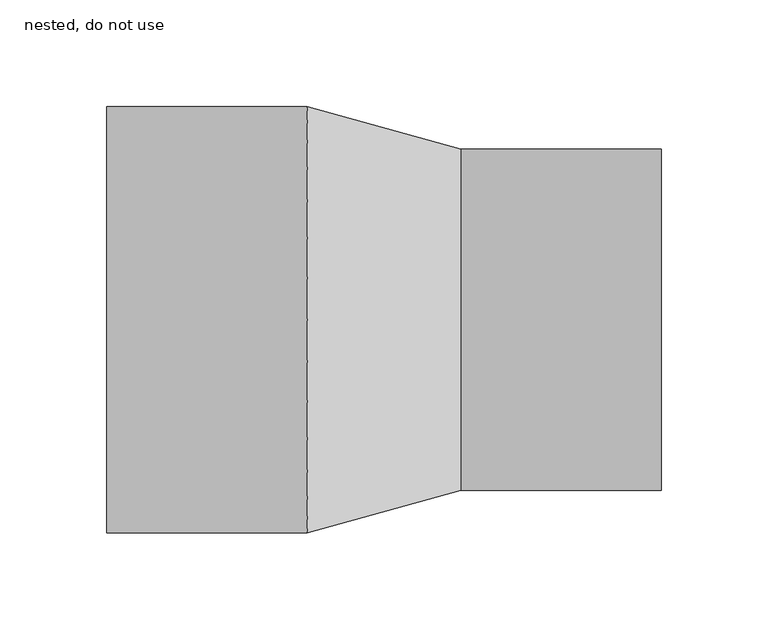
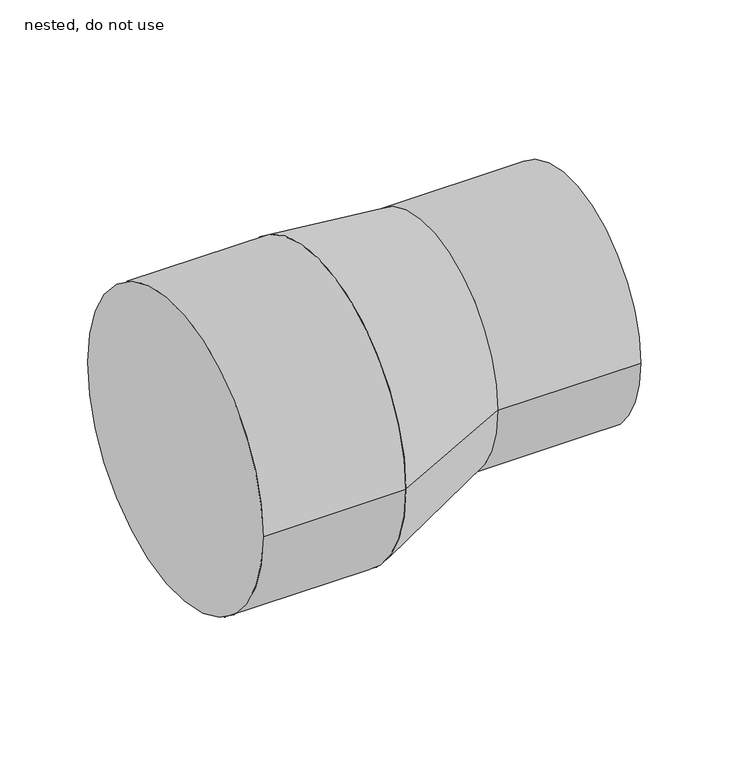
"""IFC4 building model written with IfcOpenShell, lengths in millimetres: pipe fitting geometry, NLRS_52_PIF_UN_HDPE reducer -SH_Akatherm : nested, do not use."""

from ifc_helpers import new_model, si_unit, point, frame, frame_2d, origin, origin_2d, place, context, project, spatial, circle_curve, trimmed, segment, composite_curve, outline, extrude, source, transform, mapped, element, save
from ifc_brep_helpers import plane_surface, spline_surface, advanced_brep


def nested_do_not_use_17b874a4(model_context):
    return source(origin(), model_context, "Body", "SolidModel", [
        advanced_brep(
        [(36.0, -80.0, 17.5), (36.0, 80.0, 17.5), (-36.0, -100.0, 0.0), (-36.0, 100.0, 0.0)],
        [
            (0, 1, circle_curve(frame((36.0, 0.0, 17.5), z_axis=(1.0, 0.0, 0.0), x_axis=(0.0, 1.0, 0.0)), 80.0)),
            (1, 0, circle_curve(frame((36.0, 0.0, 17.5), z_axis=(1.0, 0.0, 0.0), x_axis=(0.0, 1.0, 0.0)), 80.0)),
            (2, 3, circle_curve(frame((-36.0, 0.0, 0.0), z_axis=(-1.0, 0.0, 0.0), x_axis=(0.0, 1.0, 0.0)), 100.0)),
            (3, 2, circle_curve(frame((-36.0, 0.0, 0.0), z_axis=(-1.0, 0.0, 0.0), x_axis=(0.0, 1.0, 0.0)), 100.0)),
            (3, 1),
            (0, 2),
        ],
        [
            plane_surface(frame((36.0, 0.0, 17.5), z_axis=(1.0, 0.0, 0.0), x_axis=(0.0, 0.0, -1.0))),
            plane_surface(frame((-36.0, 0.0, 0.0), z_axis=(-1.0, 0.0, 0.0), x_axis=(0.0, 0.0, -1.0))),
            spline_surface(2, 1, [[(-36.0, -100.0, 0.0), (36.0, -80.0, 17.5)], [(-36.0, -100.0, -100.0), (36.0, -80.0, -62.5)], [(-36.0, 0.0, -100.0), (36.0, 0.0, -62.5)], [(-36.0, 100.0, -100.0), (36.0, 80.0, -62.5)], [(-36.0, 100.0, 0.0), (36.0, 80.0, 17.5)]], [3, 2, 3], [2, 2], [0.0, 1.0, 2.0], [0.0, 1.0], weights=[[1.0, 1.0], [0.7071067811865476, 0.7071067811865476], [1.0, 1.0], [0.7071067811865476, 0.7071067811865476], [1.0, 1.0]]),
            spline_surface(2, 1, [[(-36.0, 100.0, 0.0), (36.0, 80.0, 17.5)], [(-36.0, 100.0, 100.0), (36.0, 80.0, 97.5)], [(-36.0, 0.0, 100.0), (36.0, 0.0, 97.5)], [(-36.0, -100.0, 100.0), (36.0, -80.0, 97.5)], [(-36.0, -100.0, 0.0), (36.0, -80.0, 17.5)]], [3, 2, 3], [2, 2], [0.0, 1.0, 2.0], [0.0, 1.0], weights=[[1.0, 1.0], [0.7071067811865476, 0.7071067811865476], [1.0, 1.0], [0.7071067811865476, 0.7071067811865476], [1.0, 1.0]]),
        ],
        [
            (0, [[1, 2]]),
            (1, [[3, 4]]),
            (2, [[-4, 5, -1, 6]]),
            (3, [[-3, -6, -2, -5]]),
        ],
    ),
        extrude(outline(composite_curve([segment(trimmed(circle_curve(frame_2d((0.0, 17.5)), 80.0), [point((-80.0, 17.5))], [point((80.0, 17.5))], False, "CARTESIAN"), True, "CONTINUOUS"), segment(trimmed(circle_curve(frame_2d((0.0, 17.5)), 80.0), [point((80.0, 17.5))], [point((-80.0, 17.5))], False, "CARTESIAN"), True, "CONTINUOUS")], self_intersect=False)), frame((36.0, 0.0, 0.0), z_axis=(1.0, 0.0, 0.0), x_axis=(0.0, 1.0, 0.0)), (0.0, 0.0, 1.0), 94.0),
        extrude(outline(composite_curve([segment(trimmed(circle_curve(origin_2d(), 100.0), [point((-100.0, 0.0))], [point((100.0, 0.0))], False, "CARTESIAN"), True, "CONTINUOUS"), segment(trimmed(circle_curve(origin_2d(), 100.0), [point((100.0, 0.0))], [point((-100.0, 0.0))], False, "CARTESIAN"), True, "CONTINUOUS")], self_intersect=False)), frame((-130.0, 0.0, 0.0), z_axis=(1.0, 0.0, 0.0), x_axis=(0.0, 1.0, 0.0)), (0.0, 0.0, 1.0), 94.0),
    ])


if __name__ == "__main__":
    model = new_model("IFC4")
    model_context = context("Model", 3, world=origin())
    ifc_project = project(units=[si_unit("LENGTHUNIT", "METRE", prefix="MILLI")], contexts=[model_context])
    site = spatial("IfcSite", under=ifc_project)
    building = spatial("IfcBuilding", under=site)
    placement = place(None, origin())
    nested_do_not_use_shape = nested_do_not_use_17b874a4(model_context)
    element("IfcPipeFitting", 1, ObjectType="NLRS_52_PIF_UN_HDPE reducer -SH_Akatherm : nested, do not use", at=placement, inside=building, context=model_context, shape_type="MappedRepresentation", body=[
        mapped(nested_do_not_use_shape, transform((0.0, 0.0, 0.0), x_axis=(1.0, 0.0, 0.0), y_axis=(0.0, 1.0, 0.0), z_axis=(0.0, 0.0, 1.0))),
    ])
    save(model, "model.ifc")
